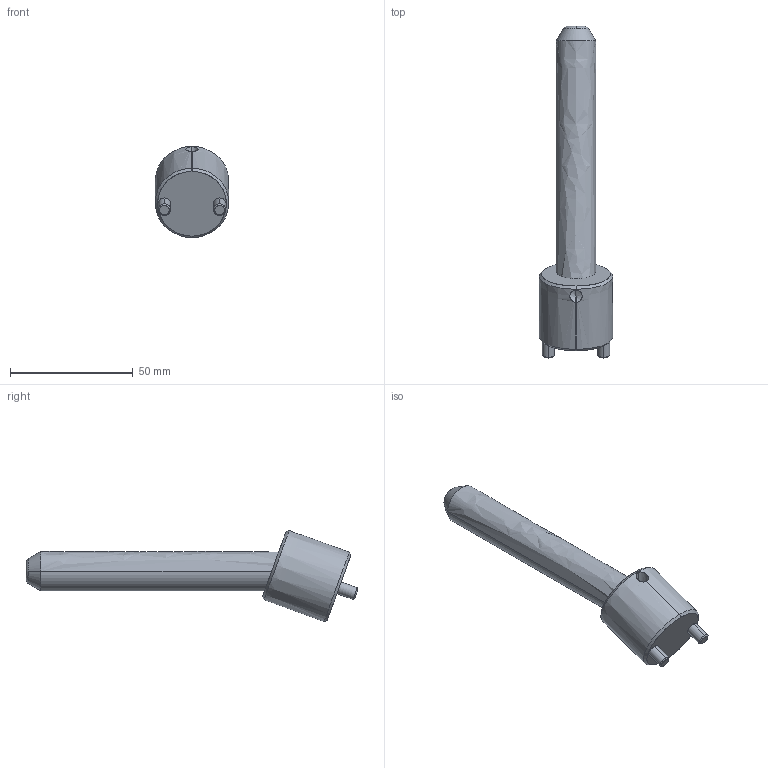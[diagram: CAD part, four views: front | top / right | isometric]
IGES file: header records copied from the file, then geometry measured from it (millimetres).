
Start section: SolidWorks IGES file using analytic representation for surfaces
Global section: file name: D:\Current\W1\Data\CI2016100\CI2016100.IGS; native system: SolidWorks 2017; preprocessor: SolidWorks 2017; author: Ravi Kalvai; date: 231207.180729; units: millimetre
Bounding box: 30 x 135.07 x 37.08 mm (x, y, z)
Surface area: 11949 mm2 (no closed solid volume)
Topology: 0 solids, 0 shells, 37 faces, 728 edges, 726 vertices
Faces by surface type: revolution 28, bspline 9
